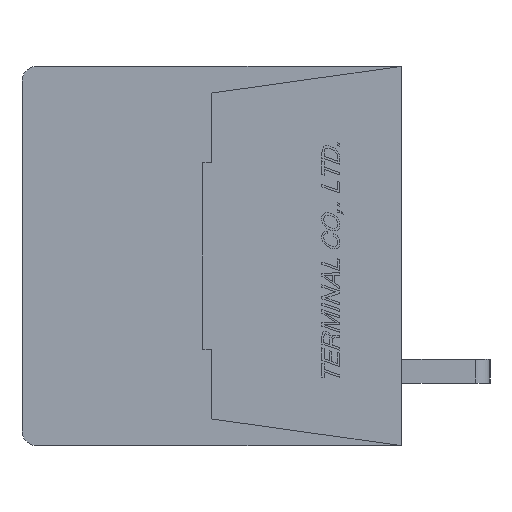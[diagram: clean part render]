
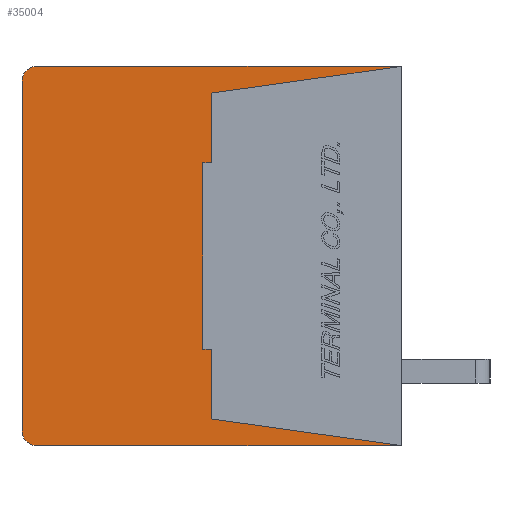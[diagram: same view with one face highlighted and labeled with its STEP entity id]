
A CAD part, left-side view. The second image highlights one B-rep face of the part: STEP entity #35004.
In plain terms, the highlighted planar face has unit normal (-1, 0, 0).
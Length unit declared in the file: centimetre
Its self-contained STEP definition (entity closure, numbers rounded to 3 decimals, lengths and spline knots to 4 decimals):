
#1796=CIRCLE('',#59941,0.05);
#1797=CIRCLE('',#59944,0.05);
#3098=VERTEX_POINT('',#48639);
#3099=VERTEX_POINT('',#48641);
#3100=VERTEX_POINT('',#48645);
#3101=VERTEX_POINT('',#48649);
#3102=VERTEX_POINT('',#48653);
#3103=VERTEX_POINT('',#48657);
#3104=VERTEX_POINT('',#48661);
#3105=VERTEX_POINT('',#48663);
#3106=VERTEX_POINT('',#48665);
#3107=VERTEX_POINT('',#48667);
#3108=VERTEX_POINT('',#48669);
#3109=VERTEX_POINT('',#48671);
#6808=VECTOR('',#40566,1.);
#6812=VECTOR('',#40575,1.);
#6815=VECTOR('',#40583,1.);
#6816=VECTOR('',#40585,1.);
#6817=VECTOR('',#40586,1.);
#6818=VECTOR('',#40587,1.);
#6819=VECTOR('',#40588,1.);
#6820=VECTOR('',#40589,1.);
#6821=VECTOR('',#40590,1.);
#6822=VECTOR('',#40591,1.);
#10928=LINE('',#48640,#6808);
#10932=LINE('',#48650,#6812);
#10935=LINE('',#48658,#6815);
#10936=LINE('',#48660,#6816);
#10937=LINE('',#48662,#6817);
#10938=LINE('',#48664,#6818);
#10939=LINE('',#48666,#6819);
#10940=LINE('',#48668,#6820);
#10941=LINE('',#48670,#6821);
#10942=LINE('',#48672,#6822);
#15508=EDGE_CURVE('',#3099,#3098,#10928,.T.);
#15511=EDGE_CURVE('',#3100,#3098,#1796,.T.);
#15513=EDGE_CURVE('',#3100,#3101,#10932,.T.);
#15515=EDGE_CURVE('',#3102,#3101,#1797,.T.);
#15517=EDGE_CURVE('',#3102,#3103,#10935,.T.);
#15518=EDGE_CURVE('',#3104,#3099,#10936,.T.);
#15519=EDGE_CURVE('',#3103,#3105,#10937,.T.);
#15520=EDGE_CURVE('',#3105,#3106,#10938,.T.);
#15521=EDGE_CURVE('',#3106,#3107,#10939,.T.);
#15522=EDGE_CURVE('',#3107,#3108,#10940,.T.);
#15523=EDGE_CURVE('',#3108,#3109,#10941,.T.);
#15524=EDGE_CURVE('',#3109,#3104,#10942,.T.);
#22593=ORIENTED_EDGE('',*,*,#15518,.T.);
#22594=ORIENTED_EDGE('',*,*,#15508,.T.);
#22595=ORIENTED_EDGE('',*,*,#15511,.F.);
#22596=ORIENTED_EDGE('',*,*,#15513,.T.);
#22597=ORIENTED_EDGE('',*,*,#15515,.F.);
#22598=ORIENTED_EDGE('',*,*,#15517,.T.);
#22599=ORIENTED_EDGE('',*,*,#15519,.T.);
#22600=ORIENTED_EDGE('',*,*,#15520,.T.);
#22601=ORIENTED_EDGE('',*,*,#15521,.T.);
#22602=ORIENTED_EDGE('',*,*,#15522,.T.);
#22603=ORIENTED_EDGE('',*,*,#15523,.T.);
#22604=ORIENTED_EDGE('',*,*,#15524,.T.);
#30478=EDGE_LOOP('',(#22593,#22594,#22595,#22596,#22597,#22598,#22599,#22600,
#22601,#22602,#22603,#22604));
#32790=FACE_BOUND('',#30478,.T.);
#35004=ADVANCED_FACE('',(#32790),#36922,.F.);
#36922=PLANE('',#59946);
#40566=DIRECTION('',(0.,1.,0.));
#40571=DIRECTION('',(1.,0.,0.));
#40572=DIRECTION('',(0.,0.,-0.05));
#40575=DIRECTION('',(0.,0.,-1.));
#40579=DIRECTION('',(1.,0.,0.));
#40580=DIRECTION('',(0.,0.,-0.05));
#40583=DIRECTION('',(0.,-1.,0.));
#40584=DIRECTION('',(1.,0.,0.));
#40585=DIRECTION('',(0.,-0.99,0.139));
#40586=DIRECTION('',(0.,0.99,0.139));
#40587=DIRECTION('',(0.,0.,1.));
#40588=DIRECTION('',(0.,1.,0.));
#40589=DIRECTION('',(0.,0.,1.));
#40590=DIRECTION('',(0.,-1.,0.));
#40591=DIRECTION('',(0.,0.,1.));
#48639=CARTESIAN_POINT('',(-1.,1.23,0.64));
#48640=CARTESIAN_POINT('',(-1.,0.,0.64));
#48641=CARTESIAN_POINT('',(-1.,0.,0.64));
#48645=CARTESIAN_POINT('',(-1.,1.28,0.59));
#48646=CARTESIAN_POINT('',(-1.,1.23,0.59));
#48649=CARTESIAN_POINT('',(-1.,1.28,-0.59));
#48650=CARTESIAN_POINT('',(-1.,1.28,0.59));
#48653=CARTESIAN_POINT('',(-1.,1.23,-0.64));
#48654=CARTESIAN_POINT('',(-1.,1.23,-0.59));
#48657=CARTESIAN_POINT('',(-1.,0.,-0.64));
#48658=CARTESIAN_POINT('',(-1.,1.23,-0.64));
#48659=CARTESIAN_POINT('',(-1.,0.6345,0.));
#48660=CARTESIAN_POINT('',(-1.,0.64,0.55));
#48661=CARTESIAN_POINT('',(-1.,0.64,0.55));
#48662=CARTESIAN_POINT('',(-1.,0.,-0.64));
#48663=CARTESIAN_POINT('',(-1.,0.64,-0.55));
#48664=CARTESIAN_POINT('',(-1.,0.64,-0.55));
#48665=CARTESIAN_POINT('',(-1.,0.64,-0.315));
#48666=CARTESIAN_POINT('',(-1.,0.64,-0.315));
#48667=CARTESIAN_POINT('',(-1.,0.67,-0.315));
#48668=CARTESIAN_POINT('',(-1.,0.67,-0.315));
#48669=CARTESIAN_POINT('',(-1.,0.67,0.315));
#48670=CARTESIAN_POINT('',(-1.,0.67,0.315));
#48671=CARTESIAN_POINT('',(-1.,0.64,0.315));
#48672=CARTESIAN_POINT('',(-1.,0.64,0.315));
#59941=AXIS2_PLACEMENT_3D('',#48646,#40571,#40572);
#59944=AXIS2_PLACEMENT_3D('',#48654,#40579,#40580);
#59946=AXIS2_PLACEMENT_3D('',#48659,#40584,$);
